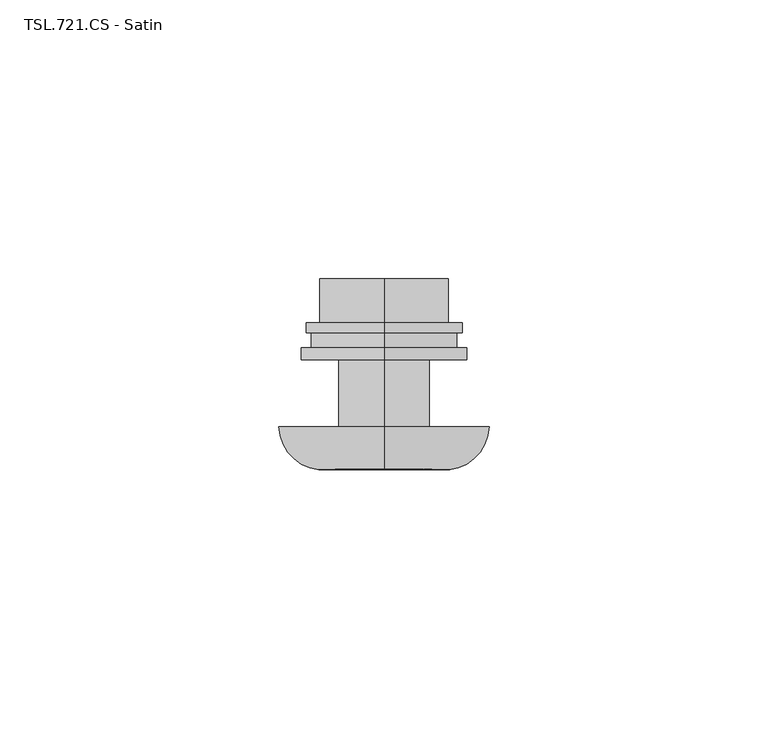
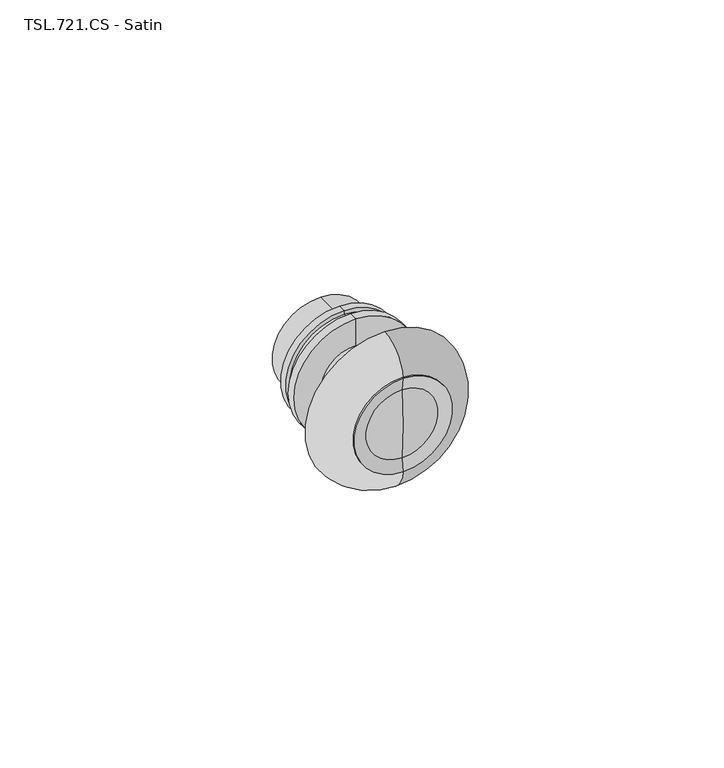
"""IFC4 building model written with IfcOpenShell, lengths in millimetres: proxy geometry, TSL_UK - TSL721 - WC Flush Valve : TSL.721.CS - Satin."""

from ifc_helpers import new_model, si_unit, point, frame, origin, place, context, project, spatial, polyline, circle_curve, ellipse_curve, trimmed, source, transform, mapped, element, save
from ifc_brep_helpers import plane_surface, cylinder_surface, revolved_surface, advanced_brep


def tsl_721_cs_satin_931a8dce(model_context):
    return source(origin(), model_context, "Body", "AdvancedBrep", [
        advanced_brep(
        [(0.0, 0.0, 991.8764818), (0.0, 0.0, 1008.1235182), (0.0, 12.0100313, 1008.1235182), (0.0, 12.0100313, 991.8764818), (0.0, 0.0, 1000.0), (0.0, 26.4852251, 988.4482441), (0.0, 26.4852251, 1011.5517559), (0.0, 26.4852251, 1000.0), (0.0, 18.6087151, 988.4482441), (0.0, 18.6087151, 1011.5517559), (0.0, 18.6087151, 985.9519858), (0.0, 18.6087151, 1014.0480142), (0.0, 16.7969148, 985.9519858), (0.0, 16.7969148, 1014.0480142), (0.0, 16.7969148, 986.9313155), (0.0, 16.7969148, 1013.0686845), (0.0, 14.1297301, 986.9313155), (0.0, 14.1297301, 1013.0686845), (0.0, 14.1297301, 985.1633049), (0.0, 14.1297301, 1014.8366951), (0.0, 12.0100313, 985.1633049), (0.0, 12.0100313, 1014.8366951)],
        [
            (0, 1, circle_curve(frame((0.0, 0.0, 1000.0), z_axis=(0.0, 1.0, 0.0), x_axis=(0.0, 0.0, 1.0)), 8.1235182)),
            (1, 2),
            (2, 3, circle_curve(frame((0.0, 12.0100313, 1000.0), z_axis=(0.0, -1.0, 0.0), x_axis=(0.0, 0.0, 1.0)), 8.1235182)),
            (3, 0),
            (1, 0, circle_curve(frame((0.0, 0.0, 1000.0), z_axis=(0.0, 1.0, 0.0), x_axis=(0.0, 0.0, 1.0)), 8.1235182)),
            (3, 2, circle_curve(frame((0.0, 12.0100313, 1000.0), z_axis=(0.0, -1.0, 0.0), x_axis=(0.0, 0.0, 1.0)), 8.1235182)),
            (4, 1),
            (0, 4),
            (5, 6, circle_curve(frame((0.0, 26.4852251, 1000.0), z_axis=(0.0, 1.0, 0.0), x_axis=(0.0, 0.0, 1.0)), 11.5517559)),
            (6, 7),
            (7, 5),
            (6, 5, circle_curve(frame((0.0, 26.4852251, 1000.0), z_axis=(0.0, 1.0, 0.0), x_axis=(0.0, 0.0, 1.0)), 11.5517559)),
            (8, 9, circle_curve(frame((0.0, 18.6087151, 1000.0), z_axis=(0.0, 1.0, 0.0), x_axis=(0.0, 0.0, 1.0)), 11.5517559)),
            (9, 6),
            (5, 8),
            (9, 8, circle_curve(frame((0.0, 18.6087151, 1000.0), z_axis=(0.0, 1.0, 0.0), x_axis=(0.0, 0.0, 1.0)), 11.5517559)),
            (10, 11, circle_curve(frame((0.0, 18.6087151, 1000.0), z_axis=(0.0, 1.0, 0.0), x_axis=(0.0, 0.0, 1.0)), 14.0480142)),
            (11, 9),
            (8, 10),
            (11, 10, circle_curve(frame((0.0, 18.6087151, 1000.0), z_axis=(0.0, 1.0, 0.0), x_axis=(0.0, 0.0, 1.0)), 14.0480142)),
            (12, 13, circle_curve(frame((0.0, 16.7969148, 1000.0), z_axis=(0.0, 1.0, 0.0), x_axis=(0.0, 0.0, 1.0)), 14.0480142)),
            (13, 11),
            (10, 12),
            (13, 12, circle_curve(frame((0.0, 16.7969148, 1000.0), z_axis=(0.0, 1.0, 0.0), x_axis=(0.0, 0.0, 1.0)), 14.0480142)),
            (14, 15, circle_curve(frame((0.0, 16.7969148, 1000.0), z_axis=(0.0, 1.0, 0.0), x_axis=(0.0, 0.0, 1.0)), 13.0686845)),
            (15, 13),
            (12, 14),
            (15, 14, circle_curve(frame((0.0, 16.7969148, 1000.0), z_axis=(0.0, 1.0, 0.0), x_axis=(0.0, 0.0, 1.0)), 13.0686845)),
            (16, 17, circle_curve(frame((0.0, 14.1297301, 1000.0), z_axis=(0.0, 1.0, 0.0), x_axis=(0.0, 0.0, 1.0)), 13.0686845)),
            (17, 15),
            (14, 16),
            (17, 16, circle_curve(frame((0.0, 14.1297301, 1000.0), z_axis=(0.0, 1.0, 0.0), x_axis=(0.0, 0.0, 1.0)), 13.0686845)),
            (18, 19, circle_curve(frame((0.0, 14.1297301, 1000.0), z_axis=(0.0, 1.0, 0.0), x_axis=(0.0, 0.0, 1.0)), 14.8366951)),
            (19, 17),
            (16, 18),
            (19, 18, circle_curve(frame((0.0, 14.1297301, 1000.0), z_axis=(0.0, 1.0, 0.0), x_axis=(0.0, 0.0, 1.0)), 14.8366951)),
            (20, 21, circle_curve(frame((0.0, 12.0100313, 1000.0), z_axis=(0.0, 1.0, 0.0), x_axis=(0.0, 0.0, 1.0)), 14.8366951)),
            (21, 19),
            (18, 20),
            (21, 20, circle_curve(frame((0.0, 12.0100313, 1000.0), z_axis=(0.0, 1.0, 0.0), x_axis=(0.0, 0.0, 1.0)), 14.8366951)),
            (2, 21),
            (20, 3),
        ],
        [
            cylinder_surface(frame((0.0, -10.0, 1000.0), z_axis=(0.0, -1.0, 0.0), x_axis=(0.0, 0.0, 1.0)), 8.1235182),
            plane_surface(frame((0.0, 0.0, 1000.0), z_axis=(0.0, -1.0, 0.0), x_axis=(0.0, 0.0, 1.0))),
            plane_surface(frame((0.0, 26.4852251, 1000.0), z_axis=(0.0, 1.0, 0.0), x_axis=(0.0, 0.0, 1.0))),
            cylinder_surface(frame((0.0, -10.0, 1000.0), z_axis=(0.0, -1.0, 0.0), x_axis=(0.0, 0.0, 1.0)), 11.5517559),
            plane_surface(frame((0.0, 18.6087151, 1000.0), z_axis=(0.0, 1.0, 0.0), x_axis=(0.0, 0.0, 1.0))),
            cylinder_surface(frame((0.0, -10.0, 1000.0), z_axis=(0.0, -1.0, 0.0), x_axis=(0.0, 0.0, 1.0)), 14.0480142),
            plane_surface(frame((0.0, 16.7969148, 1000.0), z_axis=(0.0, -1.0, 0.0), x_axis=(0.0, 0.0, 1.0))),
            cylinder_surface(frame((0.0, -10.0, 1000.0), z_axis=(0.0, -1.0, 0.0), x_axis=(0.0, 0.0, 1.0)), 13.0686845),
            plane_surface(frame((0.0, 14.1297301, 1000.0), z_axis=(0.0, 1.0, 0.0), x_axis=(0.0, 0.0, 1.0))),
            cylinder_surface(frame((0.0, -10.0, 1000.0), z_axis=(0.0, -1.0, 0.0), x_axis=(0.0, 0.0, 1.0)), 14.8366951),
            plane_surface(frame((0.0, 12.0100313, 1000.0), z_axis=(0.0, -1.0, 0.0), x_axis=(0.0, 0.0, 1.0))),
        ],
        [
            (0, [[1, 2, 3, 4]]),
            (0, [[5, -4, 6, -2]]),
            (1, [[7, -1, 8]]),
            (1, [[-8, -5, -7]]),
            (2, [[9, 10, 11]]),
            (2, [[12, -11, -10]]),
            (3, [[13, 14, -9, 15]]),
            (3, [[16, -15, -12, -14]]),
            (4, [[17, 18, -13, 19]]),
            (4, [[20, -19, -16, -18]]),
            (5, [[21, 22, -17, 23]]),
            (5, [[24, -23, -20, -22]]),
            (6, [[25, 26, -21, 27]]),
            (6, [[28, -27, -24, -26]]),
            (7, [[29, 30, -25, 31]]),
            (7, [[32, -31, -28, -30]]),
            (8, [[33, 34, -29, 35]]),
            (8, [[36, -35, -32, -34]]),
            (9, [[37, 38, -33, 39]]),
            (9, [[40, -39, -36, -38]]),
            (10, [[-3, 41, -37, 42]]),
            (10, [[-6, -42, -40, -41]]),
        ],
    ),
        advanced_brep(
        [(0.0, -7.7132153, 1000.0), (0.0, -7.2059406, 1008.5619132), (0.0, -7.2059406, 991.4380868), (0.0, 0.0, 988.2352804), (0.0, 0.0, 1011.7647196), (0.0, 0.0, 1000.0), (0.0, -7.7132153, 988.2352804), (0.0, -7.7132153, 1011.7647196)],
        [
            (0, 1, circle_curve(frame((0.0, 64.795513, 1000.0), z_axis=(-1.0, 0.0, 0.0), x_axis=(0.0, 1.0, 0.0)), 72.5087283)),
            (1, 2, circle_curve(frame((0.0, -7.2059406, 1000.0), z_axis=(0.0, -1.0, 0.0), x_axis=(0.0, 0.0, 1.0)), 8.5619132)),
            (2, 0, circle_curve(frame((0.0, 64.795513, 1000.0), z_axis=(-1.0, 0.0, 0.0), x_axis=(0.0, 1.0, 0.0)), 72.5087283)),
            (2, 1, circle_curve(frame((0.0, -7.2059406, 1000.0), z_axis=(0.0, -1.0, 0.0), x_axis=(0.0, 0.0, 1.0)), 8.5619132)),
            (3, 4, circle_curve(frame((0.0, 0.0, 1000.0), z_axis=(0.0, 1.0, 0.0), x_axis=(0.0, 0.0, 1.0)), 11.7647196)),
            (4, 5),
            (5, 3),
            (4, 3, circle_curve(frame((0.0, 0.0, 1000.0), z_axis=(0.0, 1.0, 0.0), x_axis=(0.0, 0.0, 1.0)), 11.7647196)),
            (6, 7, circle_curve(frame((0.0, -7.7132153, 1000.0), z_axis=(0.0, 1.0, 0.0), x_axis=(0.0, 0.0, 1.0)), 11.7647196)),
            (7, 4),
            (3, 6),
            (7, 6, circle_curve(frame((0.0, -7.7132153, 1000.0), z_axis=(0.0, 1.0, 0.0), x_axis=(0.0, 0.0, 1.0)), 11.7647196)),
            (1, 7),
            (6, 2),
        ],
        [
            revolved_surface(trimmed(ellipse_curve(frame((0.0, 64.795513, 1000.0), z_axis=(1.0, 0.0, 0.0), x_axis=(0.0, 1.0, 0.0)), 72.5087283, 72.5087283), [point((0.0, -7.2059406, 1008.5619132))], [point((0.0, -7.7132153, 1000.0))], True, "CARTESIAN"), (0.0, -12.0992661, 1000.0), (0.0, -1.0, 0.0)),
            plane_surface(frame((0.0, 0.0, 1000.0), z_axis=(0.0, 1.0, 0.0), x_axis=(0.0, 0.0, 1.0))),
            cylinder_surface(frame((0.0, -12.0992661, 1000.0), z_axis=(0.0, -1.0, 0.0), x_axis=(0.0, 0.0, 1.0)), 11.7647196),
            revolved_surface(polyline([(0.0, -7.7132153, 1011.7647196), (0.0, -7.2059406, 1008.5619132)]), (0.0, -12.0992661, 1000.0), (0.0, -1.0, 0.0)),
        ],
        [
            (0, [[1, 2, 3]]),
            (0, [[-3, 4, -1]]),
            (1, [[5, 6, 7]]),
            (1, [[8, -7, -6]]),
            (2, [[9, 10, -5, 11]]),
            (2, [[12, -11, -8, -10]]),
            (3, [[-2, 13, -9, 14]]),
            (3, [[-4, -14, -12, -13]]),
        ],
    ),
        advanced_brep(
        [(0.0, 0.0, 981.0539975), (0.0, 0.0, 1018.9460025), (0.0, 0.0, 1011.7647196), (0.0, 0.0, 988.2352804), (0.0, -7.7132153, 988.2352804), (0.0, -7.7132153, 1011.7647196)],
        [
            (0, 1, circle_curve(frame((0.0, 0.0, 1000.0), z_axis=(0.0, 1.0, 0.0), x_axis=(0.0, 0.0, 1.0)), 18.9460025)),
            (1, 2),
            (2, 3, circle_curve(frame((0.0, 0.0, 1000.0), z_axis=(0.0, -1.0, 0.0), x_axis=(0.0, 0.0, 1.0)), 11.7647196)),
            (3, 0),
            (1, 0, circle_curve(frame((0.0, 0.0, 1000.0), z_axis=(0.0, 1.0, 0.0), x_axis=(0.0, 0.0, 1.0)), 18.9460025)),
            (3, 2, circle_curve(frame((0.0, 0.0, 1000.0), z_axis=(0.0, -1.0, 0.0), x_axis=(0.0, 0.0, 1.0)), 11.7647196)),
            (4, 5, circle_curve(frame((0.0, -7.7132153, 1000.0), z_axis=(0.0, 1.0, 0.0), x_axis=(0.0, 0.0, 1.0)), 11.7647196)),
            (5, 1, circle_curve(frame((0.0, 0.2581052, 1010.9358629), z_axis=(-1.0, 0.0, 0.0), x_axis=(0.0, 1.0, 0.0)), 8.0142969)),
            (0, 4, circle_curve(frame((0.0, 0.2581052, 989.0641371), z_axis=(-1.0, 0.0, 0.0), x_axis=(0.0, 1.0, 0.0)), 8.0142969)),
            (5, 4, circle_curve(frame((0.0, -7.7132153, 1000.0), z_axis=(0.0, 1.0, 0.0), x_axis=(0.0, 0.0, 1.0)), 11.7647196)),
            (2, 5),
            (4, 3),
        ],
        [
            plane_surface(frame((0.0, 0.0, 1000.0), z_axis=(0.0, 1.0, 0.0), x_axis=(0.0, 0.0, 1.0))),
            revolved_surface(trimmed(ellipse_curve(frame((0.0, 0.2581052, 1010.9358629), z_axis=(1.0, 0.0, 0.0), x_axis=(0.0, 1.0, 0.0)), 8.0142969, 8.0142969), [point((0.0, 0.0, 1018.9460025))], [point((0.0, -7.7132153, 1011.7647196))], True, "CARTESIAN"), (0.0, 5.0, 1000.0), (0.0, -1.0, 0.0)),
            revolved_surface(polyline([(0.0, -7.7132153, 1011.7647196), (0.0, 0.0, 1011.7647196)]), (0.0, 5.0, 1000.0), (0.0, -1.0, 0.0)),
        ],
        [
            (0, [[1, 2, 3, 4]]),
            (0, [[5, -4, 6, -2]]),
            (1, [[7, 8, -1, 9]]),
            (1, [[10, -9, -5, -8]]),
            (2, [[-3, 11, -7, 12]]),
            (2, [[-6, -12, -10, -11]]),
        ],
    ),
    ])


if __name__ == "__main__":
    model = new_model("IFC4")
    model_context = context("Model", 3, world=origin())
    ifc_project = project(units=[si_unit("LENGTHUNIT", "METRE", prefix="MILLI")], contexts=[model_context])
    site = spatial("IfcSite", under=ifc_project)
    building = spatial("IfcBuilding", under=site)
    placement = place(None, origin())
    tsl_721_cs_satin_shape = tsl_721_cs_satin_931a8dce(model_context)
    element("IfcBuildingElementProxy", 1, Name="TSL_UK - TSL721 - WC Flush Valve : TSL.721.CS - Satin", ObjectType="TSL_UK - TSL721 - WC Flush Valve : TSL.721.CS - Satin", at=placement, inside=building, context=model_context, shape_type="MappedRepresentation", body=[
        mapped(tsl_721_cs_satin_shape, transform((0.0, 0.0, 0.0), x_axis=(1.0, 0.0, 0.0), y_axis=(0.0, 1.0, 0.0), z_axis=(0.0, 0.0, 1.0))),
    ])
    save(model, "model.ifc")
